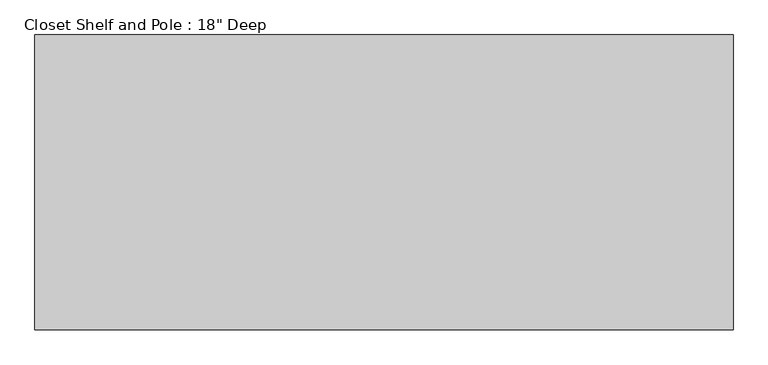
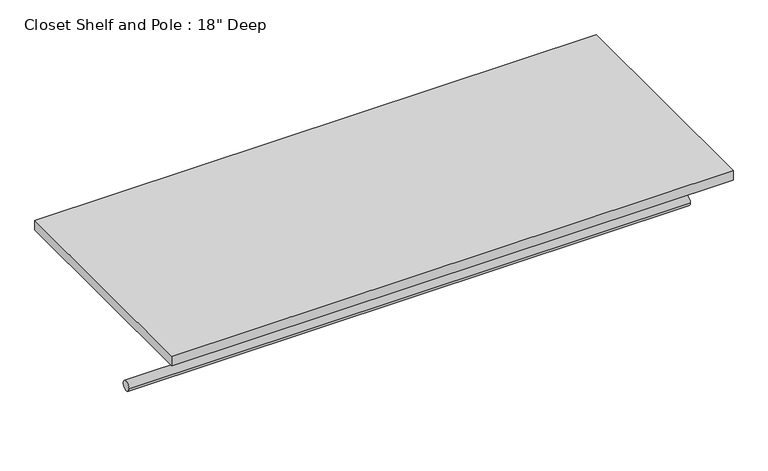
"""IFC4 building model written with IfcOpenShell, lengths in millimetres: proxy geometry."""

import ifcopenshell
import ifcopenshell.guid

model = None  # the IFC model being written
_history = None  # IfcOwnerHistory: only IFC2X3 demands one
_inside = {}  # id of a spatial element -> (the spatial element, [elements in it])
_under = {}  # id of a project, library or spatial element -> (it, [spatial elements below it])
_declared = {}  # id of a project -> (the project, [libraries it declares])
_typed = {}  # id of a type object -> (the type object, [elements of that type])
_made_of = {}  # id of a material, layer set ... -> (it, [elements and type objects made of it])


def new_model(schema):
    """Start an empty IFC model of exactly this schema.

    Asked for "IFC4X3", IfcOpenShell would pick the latest addendum, in which some entities
    have other attributes; the version numbers below select the first issue.
    IFC2X3 requires an IfcOwnerHistory on every rooted entity: one is made here for all.
    """
    global model, _history
    if schema == "IFC4X3":
        model = ifcopenshell.file(schema_version=(4, 3, 0, 0))
    else:
        model = ifcopenshell.file(schema=schema)
    _inside.clear()
    _under.clear()
    _declared.clear()
    _typed.clear()
    _made_of.clear()
    _history = None
    if model.schema == "IFC2X3":
        org = make("IfcOrganization", Name="unknown")
        user = make(
            "IfcPersonAndOrganization",
            ThePerson=make("IfcPerson", FamilyName="unknown"),
            TheOrganization=org,
        )
        app = make(
            "IfcApplication",
            ApplicationDeveloper=org,
            Version="unknown",
            ApplicationFullName="unknown",
            ApplicationIdentifier="unknown",
        )
        _history = make(
            "IfcOwnerHistory",
            OwningUser=user,
            OwningApplication=app,
            ChangeAction="ADDED",
            CreationDate=0,
        )
    return model


def make(cls, **values):
    """One entity of the class cls with the attributes given. An attribute that is None is left unset."""
    return model.create_entity(
        cls, **{name: value for name, value in values.items() if value is not None}
    )


def rooted(cls, **values):
    """An entity with a GlobalId (a new one), such as an element, a storey or a relation."""
    return make(cls, GlobalId=ifcopenshell.guid.new(), OwnerHistory=_history, **values)


def si_unit(unit_type, name, prefix=None):
    """IfcSIUnit, for example si_unit("LENGTHUNIT", "METRE", prefix="MILLI")."""
    return make("IfcSIUnit", UnitType=unit_type, Prefix=prefix, Name=name)


def assignment(units):
    """IfcUnitAssignment: the units of a project."""
    return None if units is None else make("IfcUnitAssignment", Units=units)


def point(xyz):
    """IfcCartesianPoint."""
    return None if xyz is None else make("IfcCartesianPoint", Coordinates=xyz)


def direction(xyz):
    """IfcDirection."""
    return None if xyz is None else make("IfcDirection", DirectionRatios=xyz)


def frame(location, z_axis=None, x_axis=None):
    """IfcAxis2Placement3D, a coordinate frame: its origin and axes. An axis left out is left unset."""
    return make(
        "IfcAxis2Placement3D",
        Location=point(location),
        Axis=direction(z_axis),
        RefDirection=direction(x_axis),
    )


def frame_2d(location, x_axis=None):
    """IfcAxis2Placement2D, a coordinate frame in the plane: its origin and x axis."""
    return make(
        "IfcAxis2Placement2D", Location=point(location), RefDirection=direction(x_axis)
    )


def origin():
    """The frame at (0, 0, 0) with its axes left unset."""
    return frame((0.0, 0.0, 0.0))


def place(relative_to, where):
    """IfcLocalPlacement: puts the frame where relative to a parent placement (None: the world)."""
    return make(
        "IfcLocalPlacement", PlacementRelTo=relative_to, RelativePlacement=where
    )


def context(
    kind, dimensions, precision=None, world=None, true_north=None, identifier=None
):
    """IfcGeometricRepresentationContext, for example the 3D "Model" context."""
    return make(
        "IfcGeometricRepresentationContext",
        ContextIdentifier=identifier,
        ContextType=kind,
        CoordinateSpaceDimension=dimensions,
        Precision=precision,
        WorldCoordinateSystem=world,
        TrueNorth=true_north,
    )


def project(units=None, contexts=None):
    """IfcProject with its units and contexts."""
    return rooted(
        "IfcProject",
        Name="project",
        RepresentationContexts=contexts,
        UnitsInContext=assignment(units),
    )


def spatial(cls, under=None, at=None, **own):
    """A site, building, storey or space (cls), placed at a placement, below another one or the project."""
    s = rooted(cls, ObjectPlacement=at, **own)
    if under is not None:
        _under.setdefault(under.id(), (under, []))[1].append(s)
    return s


def polyline(points):
    """IfcPolyline through the points."""
    return make("IfcPolyline", Points=[point(p) for p in points])


def circle_curve(where, radius):
    """IfcCircle in the frame where."""
    return make("IfcCircle", Position=where, Radius=radius)


def trimmed(basis, trim1, trim2, sense, master):
    """IfcTrimmedCurve: the piece of a basis curve between two trims."""
    return make(
        "IfcTrimmedCurve",
        BasisCurve=basis,
        Trim1=trim1,
        Trim2=trim2,
        SenseAgreement=sense,
        MasterRepresentation=master,
    )


def segment(curve, same_sense, transition):
    """IfcCompositeCurveSegment."""
    return make(
        "IfcCompositeCurveSegment",
        Transition=transition,
        SameSense=same_sense,
        ParentCurve=curve,
    )


def composite_curve(segments, self_intersect=None):
    """IfcCompositeCurve: segments joined end to end."""
    return make("IfcCompositeCurve", Segments=segments, SelfIntersect=self_intersect)


def outline(outer, holes=None, kind="AREA"):
    """IfcArbitraryClosedProfileDef: a profile drawn as a closed curve; with holes, ...WithVoids."""
    if holes is None:
        return make("IfcArbitraryClosedProfileDef", ProfileType=kind, OuterCurve=outer)
    return make(
        "IfcArbitraryProfileDefWithVoids",
        ProfileType=kind,
        OuterCurve=outer,
        InnerCurves=holes,
    )


def extrude(swept, where, along, depth):
    """IfcExtrudedAreaSolid: the profile swept, set in the frame where, extruded along a direction by depth."""
    return make(
        "IfcExtrudedAreaSolid",
        SweptArea=swept,
        Position=where,
        ExtrudedDirection=direction(along),
        Depth=depth,
    )


def shape(context_of_items, identifier, shape_type, items):
    """IfcShapeRepresentation: the items that make up one representation, for example the "Body"."""
    return make(
        "IfcShapeRepresentation",
        ContextOfItems=context_of_items,
        RepresentationIdentifier=identifier,
        RepresentationType=shape_type,
        Items=items,
    )


def source(mapping_origin, context_of_items, identifier, shape_type, items):
    """IfcRepresentationMap: a shape defined once, which mapped items show again and again."""
    return make(
        "IfcRepresentationMap",
        MappingOrigin=mapping_origin,
        MappedRepresentation=shape(context_of_items, identifier, shape_type, items),
    )


def transform(
    local_origin,
    x_axis=None,
    y_axis=None,
    z_axis=None,
    scale=None,
    scale2=None,
    scale3=None,
    uniform=True,
):
    """IfcCartesianTransformationOperator3D, or its non-uniform kind. x_axis, y_axis, z_axis: its Axis1, 2, 3."""
    if uniform:
        return make(
            "IfcCartesianTransformationOperator3D",
            Axis1=direction(x_axis),
            Axis2=direction(y_axis),
            LocalOrigin=point(local_origin),
            Scale=scale,
            Axis3=direction(z_axis),
        )
    return make(
        "IfcCartesianTransformationOperator3DnonUniform",
        Axis1=direction(x_axis),
        Axis2=direction(y_axis),
        LocalOrigin=point(local_origin),
        Scale=scale,
        Axis3=direction(z_axis),
        Scale2=scale2,
        Scale3=scale3,
    )


def mapped(mapping_source, mapping_target):
    """IfcMappedItem: shows the shape of a source again, moved by a transform."""
    return make(
        "IfcMappedItem", MappingSource=mapping_source, MappingTarget=mapping_target
    )


def made_of(thing, what):
    """Note that an element or type object is made of a material, layer set ...; save() writes the relation."""
    if what is not None:
        _made_of.setdefault(what.id(), (what, []))[1].append(thing)
    return thing


def element(
    cls,
    number,
    at=None,
    inside=None,
    cuts=None,
    type_object=None,
    material=None,
    context=None,
    identifier="Body",
    shape_type=None,
    held_by="IfcProductDefinitionShape",
    body=None,
    shapes=None,
    **own,
):
    """One element of the class cls, such as IfcWall. Its Tag is "e" and its number.

    at: its placement. inside: the storey or other place that contains it. cuts: it is an
    opening in that element (IfcRelVoidsElement). A single representation is given by context,
    identifier, shape_type and body (its items); several are given by shapes. held_by: the class
    of the entity that holds the representations. save() writes the other relations.
    """
    e = rooted(cls, Tag="e%d" % number, ObjectPlacement=at, **own)
    if body is not None:
        shapes = [shape(context, identifier, shape_type, body)]
    if shapes is not None:
        e.Representation = make(held_by, Representations=shapes)
    if inside is not None:
        _inside.setdefault(inside.id(), (inside, []))[1].append(e)
    if cuts is not None:
        rooted(
            "IfcRelVoidsElement", RelatingBuildingElement=cuts, RelatedOpeningElement=e
        )
    if type_object is not None:
        _typed.setdefault(type_object.id(), (type_object, []))[1].append(e)
    return made_of(e, material)


def aggregate(whole, parts):
    """IfcRelAggregates: a whole, such as a stair, and the parts it consists of."""
    return rooted("IfcRelAggregates", RelatingObject=whole, RelatedObjects=parts)


def save(model, path):
    """Write the relations noted so far, then the file.

    IfcRelAggregates (storeys below a building ...), IfcRelContainedInSpatialStructure (elements
    in a storey), IfcRelDefinesByType, IfcRelAssociatesMaterial and IfcRelDeclares: one each for
    every whole, place, type object, material and project.
    """
    for whole, parts in _under.values():
        aggregate(whole, parts)
    for where, things in _inside.values():
        rooted(
            "IfcRelContainedInSpatialStructure",
            RelatedElements=things,
            RelatingStructure=where,
        )
    for kind, things in _typed.values():
        rooted("IfcRelDefinesByType", RelatedObjects=things, RelatingType=kind)
    for what, things in _made_of.values():
        rooted("IfcRelAssociatesMaterial", RelatedObjects=things, RelatingMaterial=what)
    for by, libraries in _declared.values():
        rooted("IfcRelDeclares", RelatingContext=by, RelatedDefinitions=libraries)
    model.write(path)


def proxy_fc3aa038(model_context):
    return source(origin(), model_context, "Body", "SweptSolid", [
        extrude(outline(composite_curve([segment(trimmed(circle_curve(frame_2d((-304.8, 1676.4)), 9.525), [point((-314.325, 1676.4))], [point((-295.275, 1676.4))], False, "CARTESIAN"), True, "CONTINUOUS"), segment(trimmed(circle_curve(frame_2d((-304.8, 1676.4)), 9.525), [point((-295.275, 1676.4))], [point((-314.325, 1676.4))], False, "CARTESIAN"), True, "CONTINUOUS")], self_intersect=False)), frame((0.0, 0.0, 0.0), z_axis=(1.0, 0.0, 0.0), x_axis=(0.0, 1.0, 0.0)), (0.0, 0.0, 1.0), 1082.2643852),
        extrude(outline(polyline([(1082.2643852, 0.0), (1082.2643852, -457.2), (0.0, -457.2), (0.0, 0.0), (1082.2643852, 0.0)])), frame((0.0, 0.0, 1809.75), z_axis=(0.0, 0.0, 1.0), x_axis=(1.0, 0.0, 0.0)), (0.0, 0.0, 1.0), 19.05),
    ])


if __name__ == "__main__":
    model = new_model("IFC4")
    model_context = context("Model", 3, world=origin())
    ifc_project = project(units=[si_unit("LENGTHUNIT", "METRE", prefix="MILLI")], contexts=[model_context])
    site = spatial("IfcSite", under=ifc_project)
    building = spatial("IfcBuilding", under=site)
    placement = place(None, origin())
    proxy_shape = proxy_fc3aa038(model_context)
    element("IfcBuildingElementProxy", 1, Name="Closet Shelf and Pole : 18\" Deep", ObjectType="Closet Shelf and Pole : 18\" Deep", at=placement, inside=building, context=model_context, shape_type="MappedRepresentation", body=[
        mapped(proxy_shape, transform((0.0, 0.0, 0.0), x_axis=(1.0, 0.0, 0.0), y_axis=(0.0, 1.0, 0.0), z_axis=(0.0, 0.0, 1.0))),
    ])
    save(model, "model.ifc")
